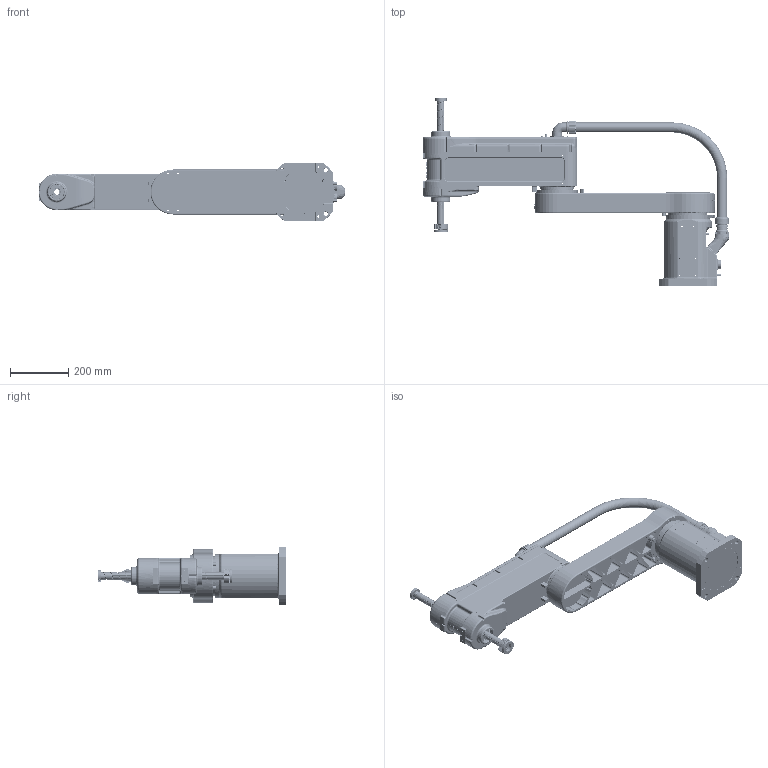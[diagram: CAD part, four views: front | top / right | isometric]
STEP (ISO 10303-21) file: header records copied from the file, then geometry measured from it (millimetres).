
FILE_DESCRIPTION (( 'STEP AP214' ), '1' );
FILE_NAME ('R4-1085-00.STEP', '2022-12-29T02:25:03', ( 'iCura' ), ( 'ICOS' ), 'SwSTEP 2.0', 'SolidWorks 2018', '' );
FILE_SCHEMA (( 'AUTOMOTIVE_DESIGN' ));
Length unit declared in the file: millimetre
Products named in the file (7): R4-1085-1-00; TMY  90度旋转软管接头（AD34.5); R4-1085-2-00 ; R4-1085-4-000 ; R4-1085-3-00; 疏恇奪R4-1085; R4-1085-00
Assembly tree (6 placements, depth 2):
  R4-1085-00
    R4-1085-1-00
    R4-1085-2-00 
    R4-1085-3-00
    TMY  90度旋转软管接头（AD34.5)
    疏恇奪R4-1085
    R4-1085-4-000 
Bounding box: 1055.51 x 646.55 x 200 mm (x, y, z)
Volume: 250854.6 mm3; surface area: 1698912 mm2
Topology: 2 solids, 273 shells, 2858 faces, 9180 edges, 6396 vertices
Faces by surface type: cylinder 1175, plane 955, cone 274, bspline 244, torus 187, sphere 23
Full cylindrical faces by diameter (mm): 1 x18, 2.5 x15, 3.1 x2, 3.2 x8, 3.3 x15, 3.4 x8, 3.5 x23, 4 x6, 4.2 x33, 4.5 x22, 5 x14, 5.5 x48, 5.891 x2, 6 x10, 6.5 x5, 6.6 x33, 6.7 x1, 7 x7, 7.5 x2, 8 x18, 8.5 x1, 10 x17, 13 x2, 14 x5, 18 x1, 19 x1, 23.3 x1, 25 x1, 29 x2, 30 x4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
Entity records: 159444 total; most frequent: CARTESIAN_POINT 54638, DIRECTION 15633, ORIENTED_EDGE 13590, EDGE_CURVE 8240, VERTEX_POINT 6190, AXIS2_PLACEMENT_3D 6067, EDGE_LOOP 4149, VECTOR 3499
